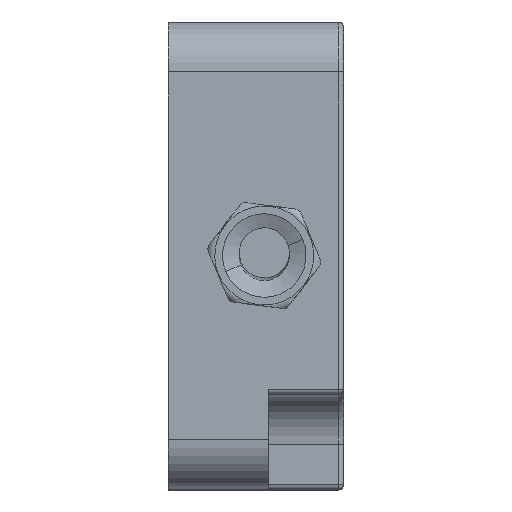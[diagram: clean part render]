
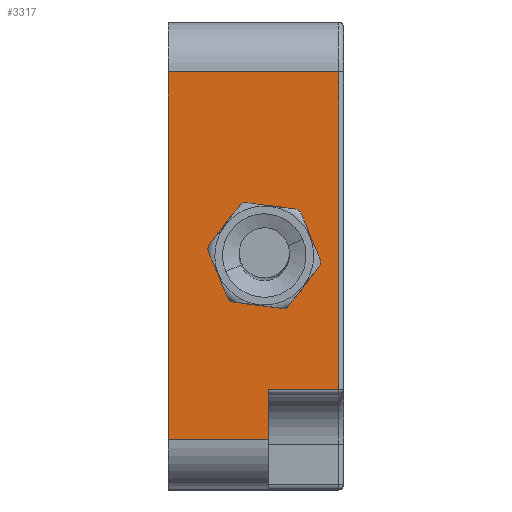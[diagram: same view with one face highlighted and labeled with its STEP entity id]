
A CAD part, top view. The second image highlights one B-rep face of the part: STEP entity #3317.
In plain terms, the highlighted planar face has unit normal (0, 0, 1).
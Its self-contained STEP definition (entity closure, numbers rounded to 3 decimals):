
#2495 = DIRECTION ( 'NONE',  ( 0., 0., -1. ) ) ;
#3317 = ADVANCED_FACE ( 'NONE', ( #4000, #15461 ), #56481, .F. ) ;
#4000 = FACE_BOUND ( 'NONE', #31507, .T. ) ;
#7369 = EDGE_CURVE ( 'NONE', #40252, #49828, #26670, .T. ) ;
#12467 = CARTESIAN_POINT ( 'NONE',  ( 10.5, -11., 14. ) ) ;
#13109 = ORIENTED_EDGE ( 'NONE', *, *, #22970, .T. ) ;
#14263 = DIRECTION ( 'NONE',  ( 0., 0., 1. ) ) ;
#15118 = ORIENTED_EDGE ( 'NONE', *, *, #74113, .T. ) ;
#15282 = EDGE_CURVE ( 'NONE', #61737, #29592, #51366, .T. ) ;
#15461 = FACE_OUTER_BOUND ( 'NONE', #29831, .T. ) ;
#17973 = VECTOR ( 'NONE', #39791, 1000. ) ;
#18201 = VECTOR ( 'NONE', #46381, 1000. ) ;
#18307 = AXIS2_PLACEMENT_3D ( 'NONE', #25404, #14263, #26545 ) ;
#18966 = DIRECTION ( 'NONE',  ( 1., 0., 0. ) ) ;
#19195 = VERTEX_POINT ( 'NONE', #66890 ) ;
#19413 = CARTESIAN_POINT ( 'NONE',  ( 0., 14., 14. ) ) ;
#20825 = CARTESIAN_POINT ( 'NONE',  ( 6., -11., 14. ) ) ;
#22193 = CARTESIAN_POINT ( 'NONE',  ( 10.5, -8., 14. ) ) ;
#22970 = EDGE_CURVE ( 'NONE', #25428, #40252, #74669, .T. ) ;
#24255 = DIRECTION ( 'NONE',  ( 0., 0., 1. ) ) ;
#25404 = CARTESIAN_POINT ( 'NONE',  ( 5.75, 0., 14. ) ) ;
#25428 = VERTEX_POINT ( 'NONE', #36764 ) ;
#25557 = CARTESIAN_POINT ( 'NONE',  ( 10.2, -8., 14. ) ) ;
#25782 = ORIENTED_EDGE ( 'NONE', *, *, #53054, .T. ) ;
#26130 = ORIENTED_EDGE ( 'NONE', *, *, #61330, .F. ) ;
#26545 = DIRECTION ( 'NONE',  ( 1., 0., 0. ) ) ;
#26549 = VECTOR ( 'NONE', #43923, 1000. ) ;
#26595 = CARTESIAN_POINT ( 'NONE',  ( 8.25, 0., 14. ) ) ;
#26670 = LINE ( 'NONE', #74144, #37789 ) ;
#29592 = VERTEX_POINT ( 'NONE', #26595 ) ;
#29831 = EDGE_LOOP ( 'NONE', ( #13109, #61734, #25782, #73202, #15118, #35307 ) ) ;
#29885 = LINE ( 'NONE', #40978, #18201 ) ;
#31507 = EDGE_LOOP ( 'NONE', ( #26130, #47760 ) ) ;
#32560 = CARTESIAN_POINT ( 'NONE',  ( 3.25, 0., 14. ) ) ;
#33904 = DIRECTION ( 'NONE',  ( 0., 1., 0. ) ) ;
#35307 = ORIENTED_EDGE ( 'NONE', *, *, #44007, .F. ) ;
#36764 = CARTESIAN_POINT ( 'NONE',  ( 6., -8., 14. ) ) ;
#37789 = VECTOR ( 'NONE', #33904, 1000. ) ;
#39791 = DIRECTION ( 'NONE',  ( 1., 0., 0. ) ) ;
#40208 = EDGE_CURVE ( 'NONE', #43483, #19195, #55419, .T. ) ;
#40252 = VERTEX_POINT ( 'NONE', #25557 ) ;
#40978 = CARTESIAN_POINT ( 'NONE',  ( 6., -8.3, 14. ) ) ;
#43483 = VERTEX_POINT ( 'NONE', #69436 ) ;
#43923 = DIRECTION ( 'NONE',  ( 0., -1., 0. ) ) ;
#44007 = EDGE_CURVE ( 'NONE', #25428, #46044, #29885, .T. ) ;
#46044 = VERTEX_POINT ( 'NONE', #20825 ) ;
#46381 = DIRECTION ( 'NONE',  ( 0., -1., 0. ) ) ;
#46632 = CARTESIAN_POINT ( 'NONE',  ( 10.5, 11., 14. ) ) ;
#47626 = DIRECTION ( 'NONE',  ( 1., 0., 0. ) ) ;
#47760 = ORIENTED_EDGE ( 'NONE', *, *, #15282, .F. ) ;
#48009 = CARTESIAN_POINT ( 'NONE',  ( 5.75, 0., 14. ) ) ;
#49828 = VERTEX_POINT ( 'NONE', #66363 ) ;
#51328 = VECTOR ( 'NONE', #18966, 1000. ) ;
#51366 = CIRCLE ( 'NONE', #18307, 2.5 ) ;
#53054 = EDGE_CURVE ( 'NONE', #49828, #43483, #75716, .T. ) ;
#54960 = CARTESIAN_POINT ( 'NONE',  ( 10.5, 14., 14. ) ) ;
#55419 = LINE ( 'NONE', #19413, #26549 ) ;
#55654 = CIRCLE ( 'NONE', #62956, 2.5 ) ;
#56481 = PLANE ( 'NONE',  #58038 ) ;
#58038 = AXIS2_PLACEMENT_3D ( 'NONE', #54960, #2495, #72575 ) ;
#59552 = VECTOR ( 'NONE', #69980, 1000. ) ;
#61330 = EDGE_CURVE ( 'NONE', #29592, #61737, #55654, .T. ) ;
#61734 = ORIENTED_EDGE ( 'NONE', *, *, #7369, .T. ) ;
#61737 = VERTEX_POINT ( 'NONE', #32560 ) ;
#62956 = AXIS2_PLACEMENT_3D ( 'NONE', #48009, #24255, #47626 ) ;
#64951 = LINE ( 'NONE', #12467, #51328 ) ;
#66363 = CARTESIAN_POINT ( 'NONE',  ( 10.2, 11., 14. ) ) ;
#66890 = CARTESIAN_POINT ( 'NONE',  ( 0., -11., 14. ) ) ;
#69436 = CARTESIAN_POINT ( 'NONE',  ( 0., 11., 14. ) ) ;
#69980 = DIRECTION ( 'NONE',  ( -1., 0., 0. ) ) ;
#72575 = DIRECTION ( 'NONE',  ( 0., 1., 0. ) ) ;
#73202 = ORIENTED_EDGE ( 'NONE', *, *, #40208, .T. ) ;
#74113 = EDGE_CURVE ( 'NONE', #19195, #46044, #64951, .T. ) ;
#74144 = CARTESIAN_POINT ( 'NONE',  ( 10.2, 11., 14. ) ) ;
#74669 = LINE ( 'NONE', #22193, #17973 ) ;
#75716 = LINE ( 'NONE', #46632, #59552 ) ;
